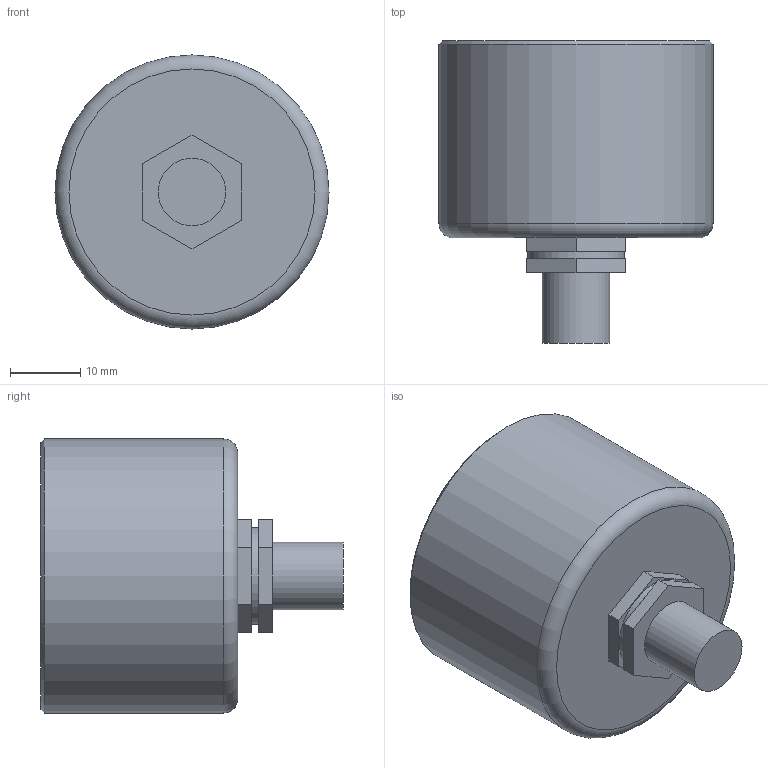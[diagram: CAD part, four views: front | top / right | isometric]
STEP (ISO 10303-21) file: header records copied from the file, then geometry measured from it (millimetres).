
FILE_DESCRIPTION(/* description */ ('VACUOMETRO Ø40'),/* implementation_level */ '2;1');
FILE_NAME(/* name */ 'C:\PNX_VAULTFOLDER\Area Tecnica\Disegni\VARIE-3D\Componenti\1900 (vuoto)\17070A_V.stp',/* time_stamp */ '2019-09-13T14:38:12+02:00',/* author */ ('maniean1'),/* organization */ ('Pneumax S.p.A.'),/* preprocessor_version */ 'ST-DEVELOPER v17',/* originating_system */ 'Autodesk Inventor 2019',/* authorisation */ '');
FILE_SCHEMA (('AUTOMOTIVE_DESIGN { 1 0 10303 214 3 1 1 }'));
Length unit declared in the file: millimetre
Products named in the file (1): 17070A.V
Bounding box: 39 x 43 x 39 mm (x, y, z)
Volume: 34882.9 mm3; surface area: 6255.9 mm2
Topology: 1 solids, 1 shells, 23 faces, 55 edges, 38 vertices
Faces by surface type: plane 18, cylinder 3, torus 1, cone 1
Full cylindrical faces by diameter (mm): 9.6 x1, 13.8 x1, 39 x1
Entity records: 759 total; most frequent: DIRECTION 118, CARTESIAN_POINT 117, ORIENTED_EDGE 110, EDGE_CURVE 55, LINE 40, VECTOR 40, AXIS2_PLACEMENT_3D 39, VERTEX_POINT 38
